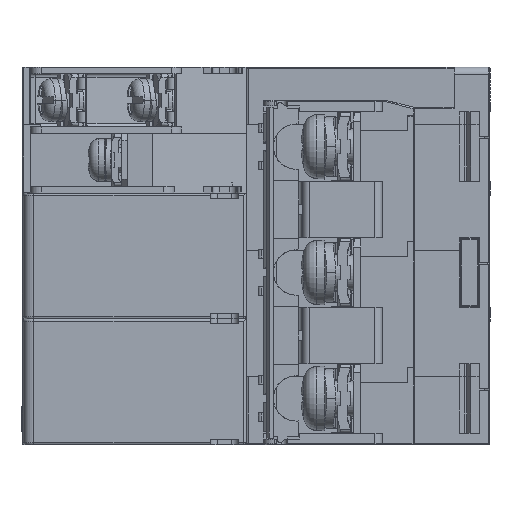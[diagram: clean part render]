
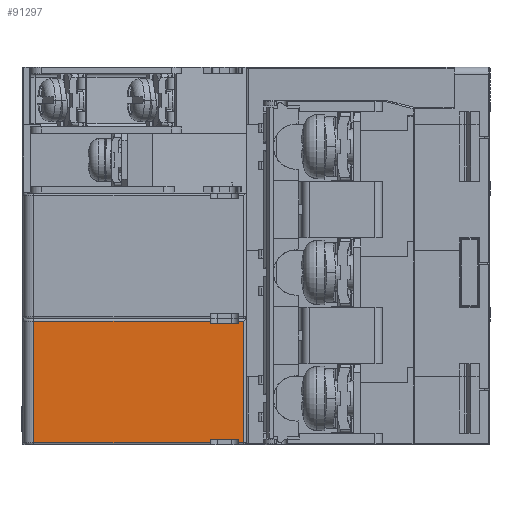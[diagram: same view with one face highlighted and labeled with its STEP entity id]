
A CAD part, left-side view. The second image highlights one B-rep face of the part: STEP entity #91297.
In plain terms, the highlighted planar face has unit normal (-1, 0, 0) as drawn and (1, 0, 0) by its records, which use the part's own axes.
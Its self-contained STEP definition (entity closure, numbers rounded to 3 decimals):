
#613 = DIRECTION ( 'NONE',  ( -1., 0., 0. ) ) ;
#1199 = ORIENTED_EDGE ( 'NONE', *, *, #15203, .T. ) ;
#1517 = DIRECTION ( 'NONE',  ( 0., 0., -1. ) ) ;
#5370 = LINE ( 'NONE', #115998, #95614 ) ;
#9069 = VECTOR ( 'NONE', #124610, 1000. ) ;
#11972 = EDGE_CURVE ( 'NONE', #123825, #86003, #40459, .T. ) ;
#15203 = EDGE_CURVE ( 'NONE', #66495, #27208, #53454, .T. ) ;
#15783 = VERTEX_POINT ( 'NONE', #78923 ) ;
#16133 = LINE ( 'NONE', #107757, #117215 ) ;
#16604 = DIRECTION ( 'NONE',  ( 0., 1., 0. ) ) ;
#16696 = ORIENTED_EDGE ( 'NONE', *, *, #48678, .T. ) ;
#16811 = DIRECTION ( 'NONE',  ( 0., 0., 1. ) ) ;
#18551 = EDGE_CURVE ( 'NONE', #27208, #41600, #5370, .T. ) ;
#18685 = EDGE_CURVE ( 'NONE', #15783, #82524, #126285, .T. ) ;
#19380 = ORIENTED_EDGE ( 'NONE', *, *, #33328, .T. ) ;
#21085 = CARTESIAN_POINT ( 'NONE',  ( 4.8, 0., 8.75 ) ) ;
#21948 = PLANE ( 'NONE',  #37909 ) ;
#23744 = CARTESIAN_POINT ( 'NONE',  ( 4.8, 1., -8.05 ) ) ;
#24345 = DIRECTION ( 'NONE',  ( 0., -1., 0. ) ) ;
#24635 = DIRECTION ( 'NONE',  ( 0., 0., -1. ) ) ;
#25961 = VECTOR ( 'NONE', #24635, 1000. ) ;
#26022 = ORIENTED_EDGE ( 'NONE', *, *, #100968, .F. ) ;
#26603 = VERTEX_POINT ( 'NONE', #87706 ) ;
#27208 = VERTEX_POINT ( 'NONE', #88406 ) ;
#29552 = ORIENTED_EDGE ( 'NONE', *, *, #11972, .F. ) ;
#30375 = CARTESIAN_POINT ( 'NONE',  ( 4.8, 0., 8.45 ) ) ;
#33328 = EDGE_CURVE ( 'NONE', #123825, #92089, #52044, .T. ) ;
#33728 = CARTESIAN_POINT ( 'NONE',  ( 4.8, 5., -8.05 ) ) ;
#33865 = EDGE_CURVE ( 'NONE', #69676, #82524, #68700, .T. ) ;
#33955 = DIRECTION ( 'NONE',  ( 0., 0., -1. ) ) ;
#35640 = ORIENTED_EDGE ( 'NONE', *, *, #18685, .T. ) ;
#36356 = VECTOR ( 'NONE', #69281, 1000. ) ;
#36889 = ORIENTED_EDGE ( 'NONE', *, *, #39618, .T. ) ;
#37909 = AXIS2_PLACEMENT_3D ( 'NONE', #21085, #613, #41989 ) ;
#39618 = EDGE_CURVE ( 'NONE', #98040, #15783, #80377, .T. ) ;
#40459 = LINE ( 'NONE', #33728, #109374 ) ;
#41600 = VERTEX_POINT ( 'NONE', #55063 ) ;
#41897 = VECTOR ( 'NONE', #33955, 1000. ) ;
#41989 = DIRECTION ( 'NONE',  ( 0., 0., 1. ) ) ;
#44580 = ORIENTED_EDGE ( 'NONE', *, *, #75212, .T. ) ;
#45138 = VECTOR ( 'NONE', #105365, 1000. ) ;
#46096 = ORIENTED_EDGE ( 'NONE', *, *, #33865, .F. ) ;
#46963 = VECTOR ( 'NONE', #1517, 1000. ) ;
#48678 = EDGE_CURVE ( 'NONE', #41600, #67420, #115867, .T. ) ;
#48816 = ORIENTED_EDGE ( 'NONE', *, *, #18551, .T. ) ;
#49594 = CARTESIAN_POINT ( 'NONE',  ( 4.8, 29.5, -8.45 ) ) ;
#52044 = LINE ( 'NONE', #72544, #25961 ) ;
#52168 = FACE_OUTER_BOUND ( 'NONE', #86921, .T. ) ;
#53454 = LINE ( 'NONE', #97611, #9069 ) ;
#54154 = CARTESIAN_POINT ( 'NONE',  ( 4.8, 0.3, -8.45 ) ) ;
#54642 = CARTESIAN_POINT ( 'NONE',  ( 4.8, 5., 8.05 ) ) ;
#55063 = CARTESIAN_POINT ( 'NONE',  ( 4.8, 0.3, 8.45 ) ) ;
#56058 = CARTESIAN_POINT ( 'NONE',  ( 4.8, 1., -8.05 ) ) ;
#66495 = VERTEX_POINT ( 'NONE', #92537 ) ;
#67420 = VERTEX_POINT ( 'NONE', #54154 ) ;
#68700 = LINE ( 'NONE', #95898, #117747 ) ;
#68782 = DIRECTION ( 'NONE',  ( 0., 1., 0. ) ) ;
#69281 = DIRECTION ( 'NONE',  ( 0., 1., 0. ) ) ;
#69676 = VERTEX_POINT ( 'NONE', #54642 ) ;
#72544 = CARTESIAN_POINT ( 'NONE',  ( 4.8, 5., -8.05 ) ) ;
#75212 = EDGE_CURVE ( 'NONE', #92089, #98040, #114488, .T. ) ;
#77038 = EDGE_CURVE ( 'NONE', #86003, #26603, #89267, .T. ) ;
#78923 = CARTESIAN_POINT ( 'NONE',  ( 4.8, 29.5, 8.45 ) ) ;
#80030 = VECTOR ( 'NONE', #16604, 1000. ) ;
#80377 = LINE ( 'NONE', #114806, #45138 ) ;
#82524 = VERTEX_POINT ( 'NONE', #124461 ) ;
#84483 = CARTESIAN_POINT ( 'NONE',  ( 4.8, 5., -8.45 ) ) ;
#86003 = VERTEX_POINT ( 'NONE', #56058 ) ;
#86408 = EDGE_CURVE ( 'NONE', #67420, #26603, #107552, .T. ) ;
#86921 = EDGE_LOOP ( 'NONE', ( #26022, #1199, #48816, #16696, #105390, #124846, #29552, #19380, #44580, #36889, #35640, #46096 ) ) ;
#87706 = CARTESIAN_POINT ( 'NONE',  ( 4.8, 1., -8.45 ) ) ;
#88406 = CARTESIAN_POINT ( 'NONE',  ( 4.8, 1., 8.45 ) ) ;
#89267 = LINE ( 'NONE', #23744, #41897 ) ;
#91297 = ADVANCED_FACE ( 'NONE', ( #52168 ), #21948, .F. ) ;
#92089 = VERTEX_POINT ( 'NONE', #84483 ) ;
#92444 = VECTOR ( 'NONE', #118577, 1000. ) ;
#92537 = CARTESIAN_POINT ( 'NONE',  ( 4.8, 1., 8.05 ) ) ;
#93926 = CARTESIAN_POINT ( 'NONE',  ( 4.8, 29.5, -8.45 ) ) ;
#95614 = VECTOR ( 'NONE', #97110, 1000. ) ;
#95898 = CARTESIAN_POINT ( 'NONE',  ( 4.8, 5., 8.05 ) ) ;
#97110 = DIRECTION ( 'NONE',  ( 0., -1., 0. ) ) ;
#97611 = CARTESIAN_POINT ( 'NONE',  ( 4.8, 1., 8.05 ) ) ;
#98040 = VERTEX_POINT ( 'NONE', #93926 ) ;
#99847 = CARTESIAN_POINT ( 'NONE',  ( 4.8, 0.3, 8.75 ) ) ;
#100968 = EDGE_CURVE ( 'NONE', #66495, #69676, #16133, .T. ) ;
#104716 = CARTESIAN_POINT ( 'NONE',  ( 4.8, 29.5, -8.45 ) ) ;
#105365 = DIRECTION ( 'NONE',  ( 0., 0., 1. ) ) ;
#105390 = ORIENTED_EDGE ( 'NONE', *, *, #86408, .T. ) ;
#107552 = LINE ( 'NONE', #104716, #80030 ) ;
#107757 = CARTESIAN_POINT ( 'NONE',  ( 4.8, 5., 8.05 ) ) ;
#109374 = VECTOR ( 'NONE', #24345, 1000. ) ;
#114488 = LINE ( 'NONE', #49594, #36356 ) ;
#114806 = CARTESIAN_POINT ( 'NONE',  ( 4.8, 29.5, 8.75 ) ) ;
#115867 = LINE ( 'NONE', #99847, #46963 ) ;
#115998 = CARTESIAN_POINT ( 'NONE',  ( 4.8, 0., 8.45 ) ) ;
#117215 = VECTOR ( 'NONE', #68782, 1000. ) ;
#117747 = VECTOR ( 'NONE', #16811, 1000. ) ;
#118577 = DIRECTION ( 'NONE',  ( 0., -1., 0. ) ) ;
#123825 = VERTEX_POINT ( 'NONE', #125431 ) ;
#124461 = CARTESIAN_POINT ( 'NONE',  ( 4.8, 5., 8.45 ) ) ;
#124610 = DIRECTION ( 'NONE',  ( 0., 0., 1. ) ) ;
#124846 = ORIENTED_EDGE ( 'NONE', *, *, #77038, .F. ) ;
#125431 = CARTESIAN_POINT ( 'NONE',  ( 4.8, 5., -8.05 ) ) ;
#126285 = LINE ( 'NONE', #30375, #92444 ) ;
